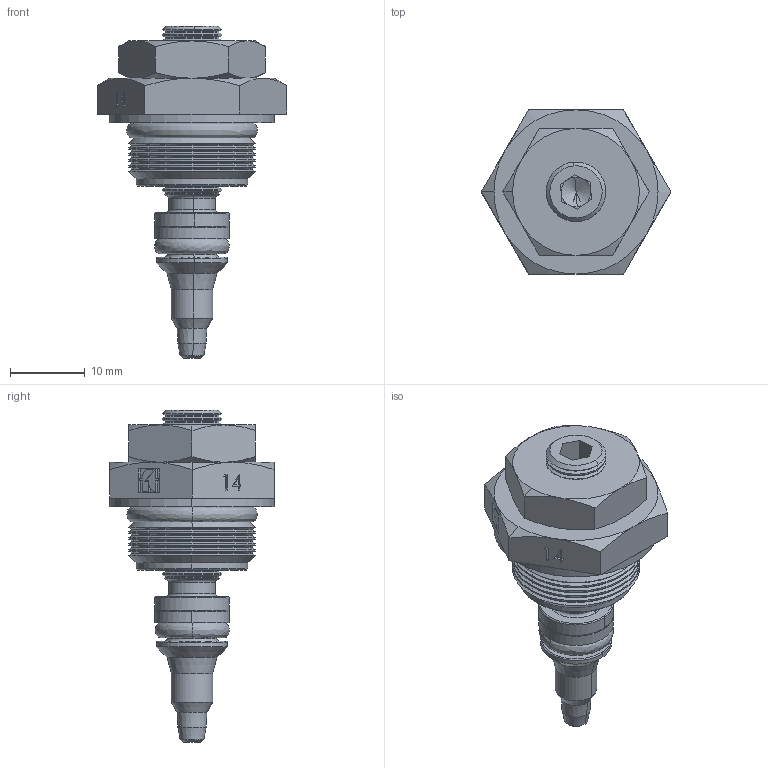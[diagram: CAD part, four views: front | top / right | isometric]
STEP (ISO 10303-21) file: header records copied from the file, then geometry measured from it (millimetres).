
FILE_DESCRIPTION (( 'STEP AP214' ), '1' );
FILE_NAME ('2243_2-14.STEP', '2014-06-11T11:38:03', ( '' ), ( '' ), 'SwSTEP 2.0', 'SolidWorks 2014', '' );
FILE_SCHEMA (( 'AUTOMOTIVE_DESIGN' ));
Length unit declared in the file: millimetre
Products named in the file (7): OR2056FT243_2-14; OR106FT243_2-14; AnelloFT243_2-14; Corpo2243_2-14; Dado2243_2-14; Spillo2243_2-14; 2243_2-14
Assembly tree (6 placements, depth 2):
  2243_2-14
    Spillo2243_2-14
    Dado2243_2-14
    Corpo2243_2-14
    AnelloFT243_2-14
    OR106FT243_2-14
    OR2056FT243_2-14
Bounding box: 25.4 x 22 x 44.5 mm (x, y, z)
Volume: 6367 mm3; surface area: 5068.2 mm2
Topology: 6 solids, 6 shells, 534 faces, 1174 edges, 664 vertices
Faces by surface type: cone 185, cylinder 160, plane 133, bspline 40, torus 16
Entity records: 18030 total; most frequent: CARTESIAN_POINT 4731, DIRECTION 2493, ORIENTED_EDGE 2344, EDGE_CURVE 1172, AXIS2_PLACEMENT_3D 926, VERTEX_POINT 664, VECTOR 641, LINE 641
